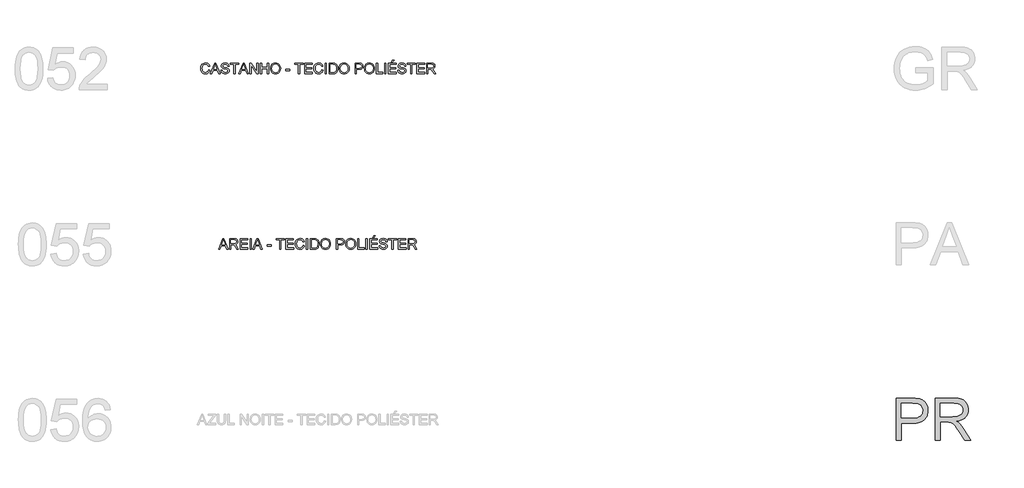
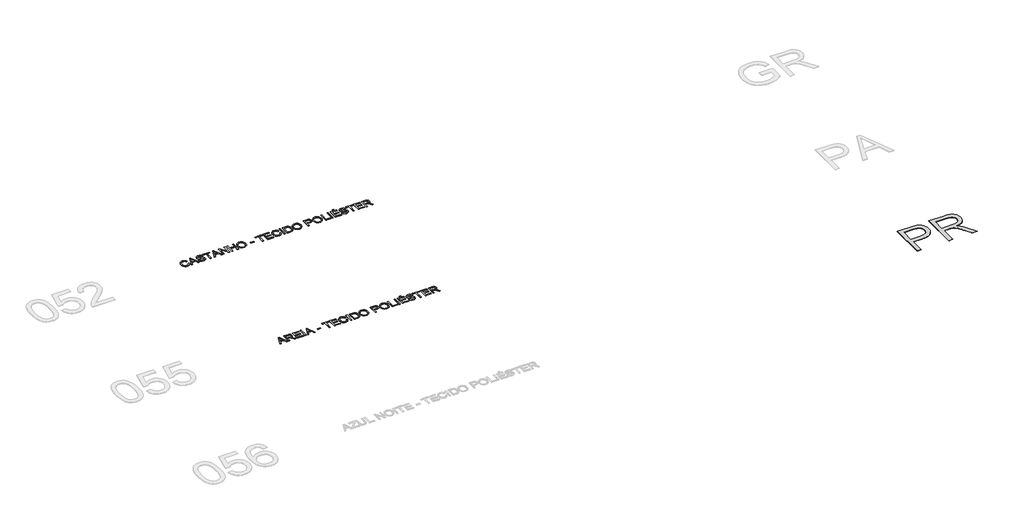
# One storey, part 51 of 67: 3 proxies.
"""IFC4 building model written with IfcOpenShell, lengths in millimetres."""

import ifcopenshell
import ifcopenshell.guid

model = None  # the IFC model being written
_history = None  # IfcOwnerHistory: only IFC2X3 demands one
_inside = {}  # id of a spatial element -> (the spatial element, [elements in it])
_under = {}  # id of a project, library or spatial element -> (it, [spatial elements below it])
_declared = {}  # id of a project -> (the project, [libraries it declares])
_typed = {}  # id of a type object -> (the type object, [elements of that type])
_made_of = {}  # id of a material, layer set ... -> (it, [elements and type objects made of it])


def new_model(schema):
    """Start an empty IFC model of exactly this schema.

    Asked for "IFC4X3", IfcOpenShell would pick the latest addendum, in which some entities
    have other attributes; the version numbers below select the first issue.
    IFC2X3 requires an IfcOwnerHistory on every rooted entity: one is made here for all.
    """
    global model, _history
    if schema == "IFC4X3":
        model = ifcopenshell.file(schema_version=(4, 3, 0, 0))
    else:
        model = ifcopenshell.file(schema=schema)
    _inside.clear()
    _under.clear()
    _declared.clear()
    _typed.clear()
    _made_of.clear()
    _history = None
    if model.schema == "IFC2X3":
        org = make("IfcOrganization", Name="unknown")
        user = make(
            "IfcPersonAndOrganization",
            ThePerson=make("IfcPerson", FamilyName="unknown"),
            TheOrganization=org,
        )
        app = make(
            "IfcApplication",
            ApplicationDeveloper=org,
            Version="unknown",
            ApplicationFullName="unknown",
            ApplicationIdentifier="unknown",
        )
        _history = make(
            "IfcOwnerHistory",
            OwningUser=user,
            OwningApplication=app,
            ChangeAction="ADDED",
            CreationDate=0,
        )
    return model


def make(cls, **values):
    """One entity of the class cls with the attributes given. An attribute that is None is left unset."""
    return model.create_entity(
        cls, **{name: value for name, value in values.items() if value is not None}
    )


def rooted(cls, **values):
    """An entity with a GlobalId (a new one), such as an element, a storey or a relation."""
    return make(cls, GlobalId=ifcopenshell.guid.new(), OwnerHistory=_history, **values)


def si_unit(unit_type, name, prefix=None):
    """IfcSIUnit, for example si_unit("LENGTHUNIT", "METRE", prefix="MILLI")."""
    return make("IfcSIUnit", UnitType=unit_type, Prefix=prefix, Name=name)


def assignment(units):
    """IfcUnitAssignment: the units of a project."""
    return None if units is None else make("IfcUnitAssignment", Units=units)


def point(xyz):
    """IfcCartesianPoint."""
    return None if xyz is None else make("IfcCartesianPoint", Coordinates=xyz)


def direction(xyz):
    """IfcDirection."""
    return None if xyz is None else make("IfcDirection", DirectionRatios=xyz)


def frame(location, z_axis=None, x_axis=None):
    """IfcAxis2Placement3D, a coordinate frame: its origin and axes. An axis left out is left unset."""
    return make(
        "IfcAxis2Placement3D",
        Location=point(location),
        Axis=direction(z_axis),
        RefDirection=direction(x_axis),
    )


def origin():
    """The frame at (0, 0, 0) with its axes left unset."""
    return frame((0.0, 0.0, 0.0))


def origin_with_axes():
    """The frame at (0, 0, 0) with the z axis (0, 0, 1) and the x axis (1, 0, 0) written out."""
    return frame((0.0, 0.0, 0.0), z_axis=(0.0, 0.0, 1.0), x_axis=(1.0, 0.0, 0.0))


def place(relative_to, where):
    """IfcLocalPlacement: puts the frame where relative to a parent placement (None: the world)."""
    return make(
        "IfcLocalPlacement", PlacementRelTo=relative_to, RelativePlacement=where
    )


def context(
    kind, dimensions, precision=None, world=None, true_north=None, identifier=None
):
    """IfcGeometricRepresentationContext, for example the 3D "Model" context."""
    return make(
        "IfcGeometricRepresentationContext",
        ContextIdentifier=identifier,
        ContextType=kind,
        CoordinateSpaceDimension=dimensions,
        Precision=precision,
        WorldCoordinateSystem=world,
        TrueNorth=true_north,
    )


def project(units=None, contexts=None):
    """IfcProject with its units and contexts."""
    return rooted(
        "IfcProject",
        Name="project",
        RepresentationContexts=contexts,
        UnitsInContext=assignment(units),
    )


def spatial(cls, under=None, at=None, **own):
    """A site, building, storey or space (cls), placed at a placement, below another one or the project."""
    s = rooted(cls, ObjectPlacement=at, **own)
    if under is not None:
        _under.setdefault(under.id(), (under, []))[1].append(s)
    return s


def polyline(points):
    """IfcPolyline through the points."""
    return make("IfcPolyline", Points=[point(p) for p in points])


def outline(outer, holes=None, kind="AREA"):
    """IfcArbitraryClosedProfileDef: a profile drawn as a closed curve; with holes, ...WithVoids."""
    if holes is None:
        return make("IfcArbitraryClosedProfileDef", ProfileType=kind, OuterCurve=outer)
    return make(
        "IfcArbitraryProfileDefWithVoids",
        ProfileType=kind,
        OuterCurve=outer,
        InnerCurves=holes,
    )


def extrude(swept, where, along, depth):
    """IfcExtrudedAreaSolid: the profile swept, set in the frame where, extruded along a direction by depth."""
    return make(
        "IfcExtrudedAreaSolid",
        SweptArea=swept,
        Position=where,
        ExtrudedDirection=direction(along),
        Depth=depth,
    )


def shape(context_of_items, identifier, shape_type, items):
    """IfcShapeRepresentation: the items that make up one representation, for example the "Body"."""
    return make(
        "IfcShapeRepresentation",
        ContextOfItems=context_of_items,
        RepresentationIdentifier=identifier,
        RepresentationType=shape_type,
        Items=items,
    )


def made_of(thing, what):
    """Note that an element or type object is made of a material, layer set ...; save() writes the relation."""
    if what is not None:
        _made_of.setdefault(what.id(), (what, []))[1].append(thing)
    return thing


def element(
    cls,
    number,
    at=None,
    inside=None,
    cuts=None,
    type_object=None,
    material=None,
    context=None,
    identifier="Body",
    shape_type=None,
    held_by="IfcProductDefinitionShape",
    body=None,
    shapes=None,
    **own,
):
    """One element of the class cls, such as IfcWall. Its Tag is "e" and its number.

    at: its placement. inside: the storey or other place that contains it. cuts: it is an
    opening in that element (IfcRelVoidsElement). A single representation is given by context,
    identifier, shape_type and body (its items); several are given by shapes. held_by: the class
    of the entity that holds the representations. save() writes the other relations.
    """
    e = rooted(cls, Tag="e%d" % number, ObjectPlacement=at, **own)
    if body is not None:
        shapes = [shape(context, identifier, shape_type, body)]
    if shapes is not None:
        e.Representation = make(held_by, Representations=shapes)
    if inside is not None:
        _inside.setdefault(inside.id(), (inside, []))[1].append(e)
    if cuts is not None:
        rooted(
            "IfcRelVoidsElement", RelatingBuildingElement=cuts, RelatedOpeningElement=e
        )
    if type_object is not None:
        _typed.setdefault(type_object.id(), (type_object, []))[1].append(e)
    return made_of(e, material)


def aggregate(whole, parts):
    """IfcRelAggregates: a whole, such as a stair, and the parts it consists of."""
    return rooted("IfcRelAggregates", RelatingObject=whole, RelatedObjects=parts)


def save(model, path):
    """Write the relations noted so far, then the file.

    IfcRelAggregates (storeys below a building ...), IfcRelContainedInSpatialStructure (elements
    in a storey), IfcRelDefinesByType, IfcRelAssociatesMaterial and IfcRelDeclares: one each for
    every whole, place, type object, material and project.
    """
    for whole, parts in _under.values():
        aggregate(whole, parts)
    for where, things in _inside.values():
        rooted(
            "IfcRelContainedInSpatialStructure",
            RelatedElements=things,
            RelatingStructure=where,
        )
    for kind, things in _typed.values():
        rooted("IfcRelDefinesByType", RelatedObjects=things, RelatingType=kind)
    for what, things in _made_of.values():
        rooted("IfcRelAssociatesMaterial", RelatedObjects=things, RelatingMaterial=what)
    for by, libraries in _declared.values():
        rooted("IfcRelDeclares", RelatingContext=by, RelatedDefinitions=libraries)
    model.write(path)


model = new_model("IFC4")

# Units and contexts
model_context = context("Model", 3, world=origin())
ifc_project = project(units=[si_unit("LENGTHUNIT", "METRE", prefix="MILLI")], contexts=[model_context])

# Site, building, storey
site = spatial("IfcSite", under=ifc_project)
building = spatial("IfcBuilding", under=site)
storey = spatial("IfcBuildingStorey", under=building, Name="Marelli - Linha COLAB - Planta Baixa", Elevation=0.0)

# Proxies
placement = place(None, origin())
element("IfcBuildingElementProxy", 1, Name="1200mm Arial", ObjectType="1200mm Arial", at=placement, inside=storey, context=model_context, shape_type="SweptSolid", body=[
    extrude(outline(polyline([(24875.3752953, -42980.5663201), (24875.3752953, -41775.0905983), (25322.1311902, -41775.0905983), (25426.1682184, -41777.9600778), (25502.246215, -41786.5685165), (25544.1755654, -41795.6092166), (25582.5548546, -41808.0160368), (25617.3840825, -41823.7889774), (25648.6632491, -41842.9280382), (25676.7234483, -41865.8286924), (25701.8957738, -41892.8864131), (25724.1802257, -41924.1012004), (25743.5768039, -41959.4730543), (25759.2853651, -41997.8339493), (25770.5057659, -42038.0158602), (25777.2380064, -42080.018787), (25779.4820866, -42123.8427297), (25773.4212307, -42197.842193), (25765.8451609, -42232.6208371), (25755.2386631, -42265.9187562), (25741.6017374, -42297.7359503), (25724.9343838, -42328.0724193), (25705.2366022, -42356.9281633), (25682.5083927, -42384.3031823), (25655.8254517, -42409.2731727), (25624.2634758, -42430.9138311), (25587.8224649, -42449.2251574), (25546.5024191, -42464.2071516), (25500.3033382, -42475.8598138), (25449.2252225, -42484.183144), (25393.2680718, -42489.1771421), (25332.4318861, -42490.8418081), (25026.0597605, -42490.8418081), (25026.0597605, -42980.5663201), (24875.3752953, -42980.5663201)]), holes=[polyline([(25026.0597605, -42340.1573429), (25341.2610539, -42340.1573429), (25413.733807, -42336.6992521), (25474.8757946, -42326.3249798), (25524.6870167, -42309.0345261), (25563.1674734, -42284.8278908), (25591.8806632, -42254.3488675), (25612.3900844, -42218.2412497), (25624.6957371, -42176.5050373), (25628.7976214, -42129.1402304), (25626.3787973, -42093.9707117), (25619.1223249, -42061.4499433), (25607.0282043, -42031.5779253), (25590.0964355, -42004.3546577), (25569.2283293, -41980.6630572), (25545.3251967, -41961.3860406), (25518.3870376, -41946.523608), (25488.413852, -41936.0757594), (25430.2884968, -41928.3502375), (25337.7293868, -41925.7750635), (25026.0597605, -41925.7750635), (25026.0597605, -42340.1573429)])]), origin_with_axes(), (0.0, 0.0, 1.0), 10.0),
    extrude(outline(polyline([(25986.6732263, -42980.5663201), (25986.6732263, -41775.0905983), (26506.1226035, -41775.0905983), (26580.6830868, -41777.1231463), (26645.7338206, -41783.2207904), (26701.2748049, -41793.3835305), (26747.3060395, -41807.6113666), (26786.5038661, -41826.9987478), (26821.5446261, -41852.6401229), (26852.4283196, -41884.5354918), (26879.1549466, -41922.6848547), (26900.7220286, -41965.0372694), (26916.1270871, -42009.5417938), (26925.3701222, -42056.1984278), (26928.4511339, -42105.0071715), (26923.3467713, -42166.9217113), (26908.0336832, -42223.7594796), (26882.5118698, -42275.5204763), (26846.781331, -42322.2047015), (26824.9728265, -42343.2705442), (26800.3822144, -42362.3222331), (26742.8546674, -42394.383149), (26674.19869, -42418.3874491), (26594.4142823, -42434.3351336), (26644.0783517, -42466.7823256), (26680.0572108, -42498.7880592), (26741.7878096, -42571.9965762), (26802.1940332, -42653.8871084), (27003.2047554, -42980.5663201), (26828.0929257, -42980.5663201), (26671.2280429, -42730.7008689), (26608.4673745, -42635.3458558), (26557.9203884, -42565.3011239), (26515.7978999, -42517.0717943), (26478.3107246, -42487.1629881), (26442.8101121, -42469.615017), (26406.647312, -42458.4681925), (26371.4042168, -42454.495067), (26319.2385499, -42453.1706918), (26137.3576915, -42453.1706918), (26137.3576915, -42980.5663201), (25986.6732263, -42980.5663201)]), holes=[polyline([(26137.3576915, -42302.4862266), (26474.6319047, -42302.4862266), (26571.495234, -42297.1519376), (26611.7875095, -42290.4840765), (26646.6535256, -42281.1490708), (26676.8750315, -42268.8802063), (26703.2337765, -42253.4107684), (26725.7297605, -42234.7407571), (26744.3629836, -42212.8701725), (26758.9770958, -42188.8750694), (26769.4157474, -42163.8315026), (26775.6789384, -42137.7394721), (26777.7666687, -42110.5989779), (26773.7843461, -42072.0633389), (26761.8373783, -42037.0961552), (26741.9257653, -42005.6974269), (26714.0495071, -41977.867154), (26677.5648103, -41955.0768644), (26631.8278812, -41938.7980861), (26576.83872, -41929.0308192), (26512.5973266, -41925.7750635), (26137.3576915, -41925.7750635), (26137.3576915, -42302.4862266)])]), origin_with_axes(), (0.0, 0.0, 1.0), 10.0),
])
element("IfcBuildingElementProxy", 2, Name="300mm Arial", ObjectType="300mm Arial", at=placement, inside=storey, context=model_context, shape_type="SweptSolid", body=[
    extrude(outline(polyline([(5567.3824418, -37530.5663201), (5687.6798542, -37229.1973896), (5719.7591642, -37229.1973896), (5840.0565766, -37530.5663201), (5800.2517447, -37530.5663201), (5765.7444136, -37436.3885293), (5641.6210284, -37436.3885293), (5607.1872736, -37530.5663201), (5567.3824418, -37530.5663201)]), holes=[polyline([(5655.4533914, -37398.717413), (5751.9856269, -37398.717413), (5724.8359357, -37324.6259792), (5703.7195092, -37266.8685059), (5684.9575274, -37318.1512561), (5655.4533914, -37398.717413)])]), origin_with_axes(), (0.0, 0.0, 1.0), 10.0),
    extrude(outline(polyline([(5880.3028669, -37530.5663201), (5880.3028669, -37229.1973896), (6010.1652112, -37229.1973896), (6045.0680154, -37231.2299376), (6070.4610702, -37237.3275817), (6089.0207168, -37248.5847708), (6103.4232969, -37266.0959537), (6112.6663321, -37287.8101885), (6115.7473438, -37311.6765329), (6110.6429811, -37341.3646099), (6095.329893, -37365.9759154), (6083.7301139, -37376.0052983), (6069.3482271, -37384.0205273), (6032.2381309, -37394.0085235), (6053.648863, -37410.1217548), (6084.1830686, -37448.8965171), (6134.4357491, -37530.5663201), (6090.6577917, -37530.5663201), (6051.441571, -37468.0999573), (6023.1146574, -37426.750021), (6003.2122414, -37407.2154871), (5985.2963883, -37400.0417882), (5963.4441978, -37398.717413), (5917.9739832, -37398.717413), (5917.9739832, -37530.5663201), (5880.3028669, -37530.5663201)]), holes=[polyline([(5917.9739832, -37361.0462967), (6002.2925365, -37361.0462967), (6026.5083688, -37359.7127245), (6045.2979417, -37355.7120078), (6059.4430044, -37348.7774322), (6069.7253062, -37338.6422832), (6075.9884971, -37326.3826157), (6078.0762275, -37313.0744845), (6074.0939049, -37294.6987789), (6062.1469371, -37279.8915286), (6041.5915306, -37270.1242616), (6011.7838919, -37266.8685059), (5917.9739832, -37266.8685059), (5917.9739832, -37361.0462967)])]), origin_with_axes(), (0.0, 0.0, 1.0), 10.0),
    extrude(outline(polyline([(6181.6717973, -37530.5663201), (6181.6717973, -37229.1973896), (6398.2807161, -37229.1973896), (6398.2807161, -37266.8685059), (6219.3429136, -37266.8685059), (6219.3429136, -37356.3374072), (6388.862937, -37356.3374072), (6388.862937, -37394.0085235), (6219.3429136, -37394.0085235), (6219.3429136, -37492.8952038), (6402.9896056, -37492.8952038), (6402.9896056, -37530.5663201), (6181.6717973, -37530.5663201)])), origin_with_axes(), (0.0, 0.0, 1.0), 10.0),
    extrude(outline(polyline([(6464.2051696, -37530.5663201), (6464.2051696, -37229.1973896), (6501.8762859, -37229.1973896), (6501.8762859, -37530.5663201), (6464.2051696, -37530.5663201)])), origin_with_axes(), (0.0, 0.0, 1.0), 10.0),
    extrude(outline(polyline([(6542.1225762, -37530.5663201), (6662.4199886, -37229.1973896), (6694.4992986, -37229.1973896), (6814.796711, -37530.5663201), (6774.9918791, -37530.5663201), (6740.484548, -37436.3885293), (6616.3611628, -37436.3885293), (6581.9274081, -37530.5663201), (6542.1225762, -37530.5663201)]), holes=[polyline([(6630.1935258, -37398.717413), (6726.7257614, -37398.717413), (6699.5760701, -37324.6259792), (6678.4596436, -37266.8685059), (6659.6976618, -37318.1512561), (6630.1935258, -37398.717413)])]), origin_with_axes(), (0.0, 0.0, 1.0), 10.0),
    extrude(outline(polyline([(6949.220792, -37441.0974188), (6949.220792, -37403.4263025), (7066.9430305, -37403.4263025), (7066.9430305, -37441.0974188), (6949.220792, -37441.0974188)])), origin_with_axes(), (0.0, 0.0, 1.0), 10.0),
    extrude(outline(polyline([(7307.096397, -37530.5663201), (7307.096397, -37266.8685059), (7208.2097166, -37266.8685059), (7208.2097166, -37229.1973896), (7443.6541936, -37229.1973896), (7443.6541936, -37266.8685059), (7344.7675133, -37266.8685059), (7344.7675133, -37530.5663201), (7307.096397, -37530.5663201)])), origin_with_axes(), (0.0, 0.0, 1.0), 10.0),
    extrude(outline(polyline([(7486.0341994, -37530.5663201), (7486.0341994, -37229.1973896), (7702.6431182, -37229.1973896), (7702.6431182, -37266.8685059), (7523.7053157, -37266.8685059), (7523.7053157, -37356.3374072), (7693.2253391, -37356.3374072), (7693.2253391, -37394.0085235), (7523.7053157, -37394.0085235), (7523.7053157, -37492.8952038), (7707.3520077, -37492.8952038), (7707.3520077, -37530.5663201), (7486.0341994, -37530.5663201)])), origin_with_axes(), (0.0, 0.0, 1.0), 10.0),
    extrude(outline(polyline([(7975.7587114, -37423.4390831), (8013.4298277, -37433.1511677), (8005.9756188, -37456.5783531), (7996.0474034, -37477.0486868), (7983.6451817, -37494.5621691), (7968.7689535, -37509.1187997), (7951.7544112, -37520.5622291), (7932.9372471, -37528.7361071), (7912.3174613, -37533.640434), (7889.8950537, -37535.2752096), (7846.1998697, -37530.3271968), (7811.4994005, -37515.4831583), (7784.9015323, -37491.2581289), (7765.5141511, -37458.1671434), (7753.6775479, -37419.2636224), (7749.7320135, -37377.6009865), (7754.1925827, -37333.6574821), (7767.5742903, -37295.7104543), (7789.1781605, -37264.9647166), (7818.3052174, -37242.6250824), (7852.8493368, -37229.0226457), (7890.7043941, -37224.4885001), (7932.0083451, -37230.3562179), (7949.9770813, -37237.6908652), (7966.1569913, -37247.9593714), (7980.2813607, -37260.8904235), (7992.0834749, -37276.2127086), (8008.7209382, -37314.0309777), (7971.0498218, -37323.0072984), (7957.990011, -37295.5357104), (7940.1477343, -37276.6909552), (7917.3022624, -37265.7924511), (7889.2328661, -37262.1596164), (7856.8776446, -37266.1879242), (7830.2981705, -37278.2728478), (7810.1290401, -37297.1451941), (7797.0048499, -37321.5357704), (7789.8035599, -37349.1085259), (7787.4031299, -37377.5274101), (7790.2450183, -37412.3290468), (7798.7706835, -37442.421794), (7813.3020223, -37466.6560205), (7834.1609314, -37483.8820949), (7859.1677101, -37494.1735937), (7886.1426574, -37497.6040933), (7917.5873709, -37492.931992), (7943.789766, -37478.9156879), (7963.5726203, -37455.702334), (7975.7587114, -37423.4390831)])), origin_with_axes(), (0.0, 0.0, 1.0), 10.0),
    extrude(outline(polyline([(8069.9365021, -37530.5663201), (8069.9365021, -37229.1973896), (8107.6076185, -37229.1973896), (8107.6076185, -37530.5663201), (8069.9365021, -37530.5663201)])), origin_with_axes(), (0.0, 0.0, 1.0), 10.0),
    extrude(outline(polyline([(8182.9498511, -37530.5663201), (8182.9498511, -37229.1973896), (8286.9133029, -37229.1973896), (8340.6976506, -37233.5383972), (8364.7203449, -37241.9077126), (8384.9906428, -37255.0962821), (8405.8311578, -37278.0521186), (8420.6751964, -37306.5997614), (8429.5595465, -37340.1873876), (8432.5209966, -37378.2631741), (8430.5160397, -37410.6091985), (8424.5011691, -37439.0740679), (8415.3409074, -37463.3082943), (8403.8997774, -37482.9623899), (8390.7296019, -37498.477813), (8376.3822041, -37510.2960221), (8359.9102878, -37519.0608107), (8340.3665568, -37525.4159721), (8291.916498, -37530.5663201), (8182.9498511, -37530.5663201)]), holes=[polyline([(8220.6209674, -37492.8952038), (8287.2811849, -37492.8952038), (8314.8539404, -37491.5340404), (8335.7680319, -37487.4505502), (8351.5501695, -37480.8838566), (8363.7270635, -37472.0730828), (8376.8144655, -37455.7667134), (8386.6461118, -37434.6594839), (8392.7989382, -37408.6594239), (8394.8498803, -37377.6745629), (8390.8307695, -37336.6189322), (8378.7734371, -37306.3054558), (8360.9587515, -37285.4833349), (8339.667581, -37272.9017706), (8317.9993315, -37268.3768221), (8286.2511153, -37266.8685059), (8220.6209674, -37266.8685059), (8220.6209674, -37492.8952038)])]), origin_with_axes(), (0.0, 0.0, 1.0), 10.0),
    extrude(outline(polyline([(8470.1921129, -37383.8549804), (8472.7029075, -37348.5061192), (8480.2352914, -37317.213157), (8492.7892645, -37289.9760937), (8510.3648268, -37266.7949295), (8531.9089161, -37248.2858666), (8556.3684703, -37235.0651074), (8583.7434892, -37227.1326519), (8614.033973, -37224.4885001), (8653.5628934, -37229.454907), (8689.0083236, -37244.3541278), (8718.4388832, -37268.1376988), (8739.9231918, -37299.7571563), (8753.056579, -37337.68579), (8757.4343747, -37380.3968896), (8752.8266527, -37423.6782064), (8739.0034868, -37462.140269), (8716.728232, -37493.8149087), (8686.7642435, -37516.733957), (8651.6223159, -37530.6398965), (8613.8132438, -37535.2752096), (8573.6773181, -37530.1524528), (8538.0295528, -37514.7841825), (8508.6725696, -37490.5591531), (8487.4089903, -37458.8661192), (8474.4963322, -37422.3998164), (8470.1921129, -37383.8549804)]), holes=[polyline([(8507.8632292, -37384.2228624), (8509.7463252, -37409.1974513), (8515.3956131, -37431.3669401), (8524.8110929, -37450.7313286), (8537.9927646, -37467.2906169), (8554.0163248, -37480.5527628), (8571.9574698, -37490.0257242), (8591.8161998, -37495.709501), (8613.5925146, -37497.6040933), (8635.74131, -37495.6911069), (8655.8345647, -37489.9521478), (8673.8722788, -37480.3872159), (8689.8544522, -37466.9963113), (8702.9395549, -37450.0875351), (8712.2860569, -37429.9689885), (8717.893958, -37406.6406715), (8719.7632584, -37380.102584), (8716.5626851, -37346.7540812), (8706.960965, -37317.9305269), (8691.2064186, -37294.358488), (8669.5473661, -37276.7645316), (8643.4185474, -37265.8108452), (8614.2547022, -37262.1596164), (8593.2348447, -37263.9185522), (8573.7325004, -37269.1953595), (8555.7476694, -37277.9900385), (8539.2803516, -37290.302589), (8525.5353606, -37306.7262208), (8515.7175098, -37327.8541437), (8509.8267994, -37353.6863575), (8507.8632292, -37384.2228624)])]), origin_with_axes(), (0.0, 0.0, 1.0), 10.0),
    extrude(outline(polyline([(8926.9543981, -37530.5663201), (8926.9543981, -37229.1973896), (9038.6433718, -37229.1973896), (9083.6721281, -37232.0668692), (9103.7492879, -37237.4287493), (9120.2763866, -37246.1567496), (9133.5845178, -37258.6463433), (9144.0047753, -37275.2930036), (9150.7370158, -37294.9287051), (9152.9810959, -37316.3854225), (9151.465882, -37334.8852883), (9146.9202401, -37351.9044291), (9139.3441702, -37367.4428449), (9128.7376725, -37381.5005356), (9114.1764432, -37393.1531978), (9094.7361791, -37401.476528), (9070.4168799, -37406.470526), (9041.2185458, -37408.1351921), (8964.6255144, -37408.1351921), (8964.6255144, -37530.5663201), (8926.9543981, -37530.5663201)]), holes=[polyline([(8964.6255144, -37370.4640758), (9043.4258378, -37370.4640758), (9076.8295229, -37367.005985), (9098.9024427, -37356.6317127), (9111.2080954, -37339.9850525), (9115.3099796, -37317.7097977), (9112.8911555, -37300.7872259), (9105.6346832, -37286.5134045), (9094.4418735, -37275.7712502), (9080.2140373, -37269.4436799), (9042.542921, -37266.8685059), (8964.6255144, -37266.8685059), (8964.6255144, -37370.4640758)])]), origin_with_axes(), (0.0, 0.0, 1.0), 10.0),
    extrude(outline(polyline([(9190.6522123, -37383.8549804), (9193.1630069, -37348.5061192), (9200.6953907, -37317.213157), (9213.2493638, -37289.9760937), (9230.8249261, -37266.7949295), (9252.3690155, -37248.2858666), (9276.8285696, -37235.0651074), (9304.2035886, -37227.1326519), (9334.4940724, -37224.4885001), (9374.0229928, -37229.454907), (9409.468423, -37244.3541278), (9438.8989826, -37268.1376988), (9460.3832911, -37299.7571563), (9473.5166783, -37337.68579), (9477.8944741, -37380.3968896), (9473.2867521, -37423.6782064), (9459.4635861, -37462.140269), (9437.1883313, -37493.8149087), (9407.2243428, -37516.733957), (9372.0824152, -37530.6398965), (9334.2733432, -37535.2752096), (9294.1374175, -37530.1524528), (9258.4896522, -37514.7841825), (9229.132669, -37490.5591531), (9207.8690896, -37458.8661192), (9194.9564316, -37422.3998164), (9190.6522123, -37383.8549804)]), holes=[polyline([(9228.3233286, -37384.2228624), (9230.2064245, -37409.1974513), (9235.8557124, -37431.3669401), (9245.2711922, -37450.7313286), (9258.452864, -37467.2906169), (9274.4764241, -37480.5527628), (9292.4175692, -37490.0257242), (9312.2762991, -37495.709501), (9334.052614, -37497.6040933), (9356.2014093, -37495.6911069), (9376.2946641, -37489.9521478), (9394.3323781, -37480.3872159), (9410.3145516, -37466.9963113), (9423.3996543, -37450.0875351), (9432.7461562, -37429.9689885), (9438.3540574, -37406.6406715), (9440.2233578, -37380.102584), (9437.0227844, -37346.7540812), (9427.4210644, -37317.9305269), (9411.6665179, -37294.358488), (9390.0074654, -37276.7645316), (9363.8786467, -37265.8108452), (9334.7148016, -37262.1596164), (9313.6949441, -37263.9185522), (9294.1925998, -37269.1953595), (9276.2077688, -37277.9900385), (9259.740451, -37290.302589), (9245.9954599, -37306.7262208), (9236.1776092, -37327.8541437), (9230.2868987, -37353.6863575), (9228.3233286, -37384.2228624)])]), origin_with_axes(), (0.0, 0.0, 1.0), 10.0),
    extrude(outline(polyline([(9529.692259, -37530.5663201), (9529.692259, -37229.1973896), (9567.3633753, -37229.1973896), (9567.3633753, -37492.8952038), (9718.0478405, -37492.8952038), (9718.0478405, -37530.5663201), (9529.692259, -37530.5663201)])), origin_with_axes(), (0.0, 0.0, 1.0), 10.0),
    extrude(outline(polyline([(9765.1367359, -37530.5663201), (9765.1367359, -37229.1973896), (9802.8078522, -37229.1973896), (9802.8078522, -37530.5663201), (9765.1367359, -37530.5663201)])), origin_with_axes(), (0.0, 0.0, 1.0), 10.0),
    extrude(outline(polyline([(9878.1500848, -37530.5663201), (9878.1500848, -37229.1973896), (10094.7590036, -37229.1973896), (10094.7590036, -37266.8685059), (9915.8212011, -37266.8685059), (9915.8212011, -37356.3374072), (10085.3412245, -37356.3374072), (10085.3412245, -37394.0085235), (9915.8212011, -37394.0085235), (9915.8212011, -37492.8952038), (10099.4678931, -37492.8952038), (10099.4678931, -37530.5663201), (9878.1500848, -37530.5663201)])), origin_with_axes(), (0.0, 0.0, 1.0), 10.0),
    extrude(outline(polyline([(9962.9100965, -37210.3618315), (9991.1634338, -37153.855157), (10038.2523291, -37153.855157), (9991.1634338, -37210.3618315), (9962.9100965, -37210.3618315)])), origin_with_axes(), (0.0, 0.0, 1.0), 10.0),
    extrude(outline(polyline([(10141.847899, -37426.9707502), (10179.5190153, -37426.9707502), (10183.8416287, -37447.8756446), (10191.6591211, -37464.6786547), (10203.8544093, -37478.0143771), (10221.3104099, -37488.517408), (10242.6475657, -37495.332422), (10266.486319, -37497.6040933), (10287.4739868, -37495.884245), (10305.8496924, -37490.7247), (10320.7397162, -37482.5577197), (10331.2703383, -37471.8155654), (10337.5335293, -37459.4823216), (10339.6212596, -37446.5420724), (10338.0577611, -37433.932917), (10333.3672657, -37423.0344129), (10323.839122, -37413.7361954), (10307.7626788, -37405.9279001), (10252.9114733, -37391.5437141), (10216.9050231, -37382.0247675), (10193.8664131, -37372.9656733), (10175.1136284, -37360.2921386), (10161.8238913, -37344.9330653), (10153.9052314, -37327.2195472), (10151.2656781, -37307.4826782), (10154.5306308, -37285.4189555), (10164.3254889, -37264.845155), (10180.392735, -37247.4075484), (10202.4748518, -37234.7524077), (10228.9807495, -37227.054477), (10258.3193387, -37224.4885001), (10290.104343, -37227.1740386), (10317.9162219, -37235.2306543), (10340.7616938, -37248.4928003), (10357.6474774, -37266.7949295), (10368.3344493, -37288.9966079), (10372.5834864, -37313.9574013), (10334.9123701, -37313.9574013), (10327.9961885, -37291.4798114), (10313.5752143, -37275.2562154), (10291.0424421, -37265.4337661), (10259.7908666, -37262.1596164), (10227.8035272, -37265.3969779), (10205.8593661, -37275.1090626), (10193.1674373, -37289.4012781), (10188.9367944, -37306.3790322), (10191.9350326, -37320.8551887), (10200.9297474, -37332.4986539), (10222.1933267, -37342.9097143), (10262.439617, -37353.541504), (10303.9734943, -37363.6398648), (10329.0998345, -37372.4506385), (10350.574946, -37386.1174547), (10365.5569403, -37402.9848441), (10374.358517, -37422.868866), (10377.2923759, -37445.5855792), (10373.9170586, -37468.8081301), (10363.7911067, -37490.6511236), (10347.3283874, -37509.4498935), (10324.942768, -37523.539774), (10298.023003, -37532.3413507), (10267.9578469, -37535.2752096), (10231.0500858, -37532.1114244), (10200.67223, -37522.620069), (10176.4747918, -37506.764355), (10158.1082832, -37484.5074943), (10146.3176652, -37457.3945912), (10141.847899, -37426.9707502)])), origin_with_axes(), (0.0, 0.0, 1.0), 10.0),
    extrude(outline(polyline([(10509.141283, -37530.5663201), (10509.141283, -37266.8685059), (10410.2546027, -37266.8685059), (10410.2546027, -37229.1973896), (10645.6990796, -37229.1973896), (10645.6990796, -37266.8685059), (10546.8123993, -37266.8685059), (10546.8123993, -37530.5663201), (10509.141283, -37530.5663201)])), origin_with_axes(), (0.0, 0.0, 1.0), 10.0),
    extrude(outline(polyline([(10688.0790854, -37530.5663201), (10688.0790854, -37229.1973896), (10904.6880042, -37229.1973896), (10904.6880042, -37266.8685059), (10725.7502017, -37266.8685059), (10725.7502017, -37356.3374072), (10895.2702251, -37356.3374072), (10895.2702251, -37394.0085235), (10725.7502017, -37394.0085235), (10725.7502017, -37492.8952038), (10909.3968937, -37492.8952038), (10909.3968937, -37530.5663201), (10688.0790854, -37530.5663201)])), origin_with_axes(), (0.0, 0.0, 1.0), 10.0),
    extrude(outline(polyline([(10965.9035682, -37530.5663201), (10965.9035682, -37229.1973896), (11095.7659125, -37229.1973896), (11130.6687168, -37231.2299376), (11156.0617715, -37237.3275817), (11174.6214181, -37248.5847708), (11189.0239983, -37266.0959537), (11198.2670334, -37287.8101885), (11201.3480451, -37311.6765329), (11196.2436824, -37341.3646099), (11180.9305944, -37365.9759154), (11169.3308152, -37376.0052983), (11154.9489285, -37384.0205273), (11117.8388322, -37394.0085235), (11139.2495643, -37410.1217548), (11169.7837699, -37448.8965171), (11220.0364504, -37530.5663201), (11176.258493, -37530.5663201), (11137.0422723, -37468.0999573), (11108.7153587, -37426.750021), (11088.8129428, -37407.2154871), (11070.8970896, -37400.0417882), (11049.0448991, -37398.717413), (11003.5746845, -37398.717413), (11003.5746845, -37530.5663201), (10965.9035682, -37530.5663201)]), holes=[polyline([(11003.5746845, -37361.0462967), (11087.8932378, -37361.0462967), (11112.1090701, -37359.7127245), (11130.898643, -37355.7120078), (11145.0437057, -37348.7774322), (11155.3260075, -37338.6422832), (11161.5891985, -37326.3826157), (11163.6769288, -37313.0744845), (11159.6946062, -37294.6987789), (11147.7476384, -37279.8915286), (11127.1922319, -37270.1242616), (11097.3845933, -37266.8685059), (11003.5746845, -37266.8685059), (11003.5746845, -37361.0462967)])]), origin_with_axes(), (0.0, 0.0, 1.0), 10.0),
])
element("IfcBuildingElementProxy", 3, Name="300mm Arial", ObjectType="300mm Arial", at=placement, inside=storey, context=model_context, shape_type="SweptSolid", body=[
    extrude(outline(polyline([(5282.2738955, -32423.4390831), (5319.9450118, -32433.1511677), (5312.4908029, -32456.5783531), (5302.5625875, -32477.0486868), (5290.1603658, -32494.5621691), (5275.2841376, -32509.1187997), (5258.2695953, -32520.5622291), (5239.4524313, -32528.7361071), (5218.8326454, -32533.640434), (5196.4102378, -32535.2752096), (5152.7150538, -32530.3271968), (5118.0145847, -32515.4831583), (5091.4167164, -32491.2581289), (5072.0293353, -32458.1671434), (5060.1927321, -32419.2636224), (5056.2471977, -32377.6009865), (5060.7077669, -32333.6574821), (5074.0894744, -32295.7104543), (5095.6933446, -32264.9647166), (5124.8204016, -32242.6250824), (5159.3645209, -32229.0226457), (5197.2195782, -32224.4885001), (5238.5235292, -32230.3562179), (5256.4922654, -32237.6908652), (5272.6721754, -32247.9593714), (5286.7965448, -32260.8904235), (5298.598659, -32276.2127086), (5315.2361223, -32314.0309777), (5277.565006, -32323.0072984), (5264.5051951, -32295.5357104), (5246.6629184, -32276.6909552), (5223.8174465, -32265.7924511), (5195.7480502, -32262.1596164), (5163.3928288, -32266.1879242), (5136.8133546, -32278.2728478), (5116.6442242, -32297.1451941), (5103.520034, -32321.5357704), (5096.318744, -32349.1085259), (5093.918314, -32377.5274101), (5096.7602024, -32412.3290468), (5105.2858676, -32442.421794), (5119.8172064, -32466.6560205), (5140.6761156, -32483.8820949), (5165.6828942, -32494.1735937), (5192.6578415, -32497.6040933), (5224.102555, -32492.931992), (5250.3049501, -32478.9156879), (5270.0878044, -32455.702334), (5282.2738955, -32423.4390831)])), origin_with_axes(), (0.0, 0.0, 1.0), 10.0),
    extrude(outline(polyline([(5336.6468544, -32530.5663201), (5456.9442668, -32229.1973896), (5489.0235768, -32229.1973896), (5609.3209892, -32530.5663201), (5569.5161573, -32530.5663201), (5535.0088262, -32436.3885293), (5410.885441, -32436.3885293), (5376.4516863, -32530.5663201), (5336.6468544, -32530.5663201)]), holes=[polyline([(5424.717804, -32398.717413), (5521.2500396, -32398.717413), (5494.1003483, -32324.6259792), (5472.9839218, -32266.8685059), (5454.22194, -32318.1512561), (5424.717804, -32398.717413)])]), origin_with_axes(), (0.0, 0.0, 1.0), 10.0),
    extrude(outline(polyline([(5635.4406109, -32426.9707502), (5673.1117272, -32426.9707502), (5677.4343406, -32447.8756446), (5685.251833, -32464.6786547), (5697.4471212, -32478.0143771), (5714.9031218, -32488.517408), (5736.2402775, -32495.332422), (5760.0790308, -32497.6040933), (5781.0666987, -32495.884245), (5799.4424043, -32490.7247), (5814.3324281, -32482.5577197), (5824.8630502, -32471.8155654), (5831.1262412, -32459.4823216), (5833.2139715, -32446.5420724), (5831.650473, -32433.932917), (5826.9599776, -32423.0344129), (5817.4318339, -32413.7361954), (5801.3553907, -32405.9279001), (5746.5041852, -32391.5437141), (5710.4977349, -32382.0247675), (5687.459125, -32372.9656733), (5668.7063403, -32360.2921386), (5655.4166032, -32344.9330653), (5647.4979433, -32327.2195472), (5644.8583899, -32307.4826782), (5648.1233427, -32285.4189555), (5657.9182008, -32264.845155), (5673.9854469, -32247.4075484), (5696.0675637, -32234.7524077), (5722.5734614, -32227.054477), (5751.9120505, -32224.4885001), (5783.6970549, -32227.1740386), (5811.5089338, -32235.2306543), (5834.3544057, -32248.4928003), (5851.2401892, -32266.7949295), (5861.9271612, -32288.9966079), (5866.1761982, -32313.9574013), (5828.5050819, -32313.9574013), (5821.5889004, -32291.4798114), (5807.1679262, -32275.2562154), (5784.635154, -32265.4337661), (5753.3835785, -32262.1596164), (5721.396239, -32265.3969779), (5699.452078, -32275.1090626), (5686.7601492, -32289.4012781), (5682.5295062, -32306.3790322), (5685.5277445, -32320.8551887), (5694.5224593, -32332.4986539), (5715.7860386, -32342.9097143), (5756.0323289, -32353.541504), (5797.5662061, -32363.6398648), (5822.6925464, -32372.4506385), (5844.1676579, -32386.1174547), (5859.1496521, -32402.9848441), (5867.9512289, -32422.868866), (5870.8850878, -32445.5855792), (5867.5097705, -32468.8081301), (5857.3838186, -32490.6511236), (5840.9210993, -32509.4498935), (5818.5354799, -32523.539774), (5791.6157149, -32532.3413507), (5761.5505588, -32535.2752096), (5724.6427976, -32532.1114244), (5694.2649419, -32522.620069), (5670.0675037, -32506.764355), (5651.7009951, -32484.5074943), (5639.9103771, -32457.3945912), (5635.4406109, -32426.9707502)])), origin_with_axes(), (0.0, 0.0, 1.0), 10.0),
    extrude(outline(polyline([(6002.7339949, -32530.5663201), (6002.7339949, -32266.8685059), (5903.8473145, -32266.8685059), (5903.8473145, -32229.1973896), (6139.2917915, -32229.1973896), (6139.2917915, -32266.8685059), (6040.4051112, -32266.8685059), (6040.4051112, -32530.5663201), (6002.7339949, -32530.5663201)])), origin_with_axes(), (0.0, 0.0, 1.0), 10.0),
    extrude(outline(polyline([(6146.575855, -32530.5663201), (6266.8732674, -32229.1973896), (6298.9525774, -32229.1973896), (6419.2499898, -32530.5663201), (6379.4451579, -32530.5663201), (6344.9378268, -32436.3885293), (6220.8144416, -32436.3885293), (6186.3806868, -32530.5663201), (6146.575855, -32530.5663201)]), holes=[polyline([(6234.6468046, -32398.717413), (6331.1790401, -32398.717413), (6304.0293489, -32324.6259792), (6282.9129224, -32266.8685059), (6264.1509406, -32318.1512561), (6234.6468046, -32398.717413)])]), origin_with_axes(), (0.0, 0.0, 1.0), 10.0),
    extrude(outline(polyline([(6459.4962801, -32530.5663201), (6459.4962801, -32229.1973896), (6499.8161467, -32229.1973896), (6657.2696407, -32467.9528045), (6657.2696407, -32229.1973896), (6694.940757, -32229.1973896), (6694.940757, -32530.5663201), (6654.6208903, -32530.5663201), (6497.1673964, -32291.7373288), (6497.1673964, -32530.5663201), (6459.4962801, -32530.5663201)])), origin_with_axes(), (0.0, 0.0, 1.0), 10.0),
    extrude(outline(polyline([(6760.8652105, -32530.5663201), (6760.8652105, -32229.1973896), (6798.5363268, -32229.1973896), (6798.5363268, -32351.6285176), (6958.6385711, -32351.6285176), (6958.6385711, -32229.1973896), (6996.3096874, -32229.1973896), (6996.3096874, -32530.5663201), (6958.6385711, -32530.5663201), (6958.6385711, -32389.2996339), (6798.5363268, -32389.2996339), (6798.5363268, -32530.5663201), (6760.8652105, -32530.5663201)])), origin_with_axes(), (0.0, 0.0, 1.0), 10.0),
    extrude(outline(polyline([(7048.1074723, -32383.8549804), (7050.618267, -32348.5061192), (7058.1506508, -32317.213157), (7070.7046239, -32289.9760937), (7088.2801862, -32266.7949295), (7109.8242756, -32248.2858666), (7134.2838297, -32235.0651074), (7161.6588487, -32227.1326519), (7191.9493325, -32224.4885001), (7231.4782528, -32229.454907), (7266.9236831, -32244.3541278), (7296.3542427, -32268.1376988), (7317.8385512, -32299.7571563), (7330.9719384, -32337.68579), (7335.3497342, -32380.3968896), (7330.7420122, -32423.6782064), (7316.9188462, -32462.140269), (7294.6435914, -32493.8149087), (7264.6796029, -32516.733957), (7229.5376753, -32530.6398965), (7191.7286033, -32535.2752096), (7151.5926776, -32530.1524528), (7115.9449123, -32514.7841825), (7086.587929, -32490.5591531), (7065.3243497, -32458.8661192), (7052.4116917, -32422.3998164), (7048.1074723, -32383.8549804)]), holes=[polyline([(7085.7785887, -32384.2228624), (7087.6616846, -32409.1974513), (7093.3109725, -32431.3669401), (7102.7264523, -32450.7313286), (7115.9081241, -32467.2906169), (7131.9316842, -32480.5527628), (7149.8728293, -32490.0257242), (7169.7315592, -32495.709501), (7191.5078741, -32497.6040933), (7213.6566694, -32495.6911069), (7233.7499242, -32489.9521478), (7251.7876382, -32480.3872159), (7267.7698117, -32466.9963113), (7280.8549144, -32450.0875351), (7290.2014163, -32429.9689885), (7295.8093175, -32406.6406715), (7297.6786179, -32380.102584), (7294.4780445, -32346.7540812), (7284.8763244, -32317.9305269), (7269.121778, -32294.358488), (7247.4627255, -32276.7645316), (7221.3339068, -32265.8108452), (7192.1700617, -32262.1596164), (7171.1502042, -32263.9185522), (7151.6478599, -32269.1953595), (7133.6630288, -32277.9900385), (7117.195711, -32290.302589), (7103.45072, -32306.7262208), (7093.6328692, -32327.8541437), (7087.7421588, -32353.6863575), (7085.7785887, -32384.2228624)])]), origin_with_axes(), (0.0, 0.0, 1.0), 10.0),
    extrude(outline(polyline([(7481.3253099, -32441.0974188), (7481.3253099, -32403.4263025), (7599.0475483, -32403.4263025), (7599.0475483, -32441.0974188), (7481.3253099, -32441.0974188)])), origin_with_axes(), (0.0, 0.0, 1.0), 10.0),
    extrude(outline(polyline([(7839.2009148, -32530.5663201), (7839.2009148, -32266.8685059), (7740.3142345, -32266.8685059), (7740.3142345, -32229.1973896), (7975.7587114, -32229.1973896), (7975.7587114, -32266.8685059), (7876.8720311, -32266.8685059), (7876.8720311, -32530.5663201), (7839.2009148, -32530.5663201)])), origin_with_axes(), (0.0, 0.0, 1.0), 10.0),
    extrude(outline(polyline([(8018.1387172, -32530.5663201), (8018.1387172, -32229.1973896), (8234.747636, -32229.1973896), (8234.747636, -32266.8685059), (8055.8098335, -32266.8685059), (8055.8098335, -32356.3374072), (8225.3298569, -32356.3374072), (8225.3298569, -32394.0085235), (8055.8098335, -32394.0085235), (8055.8098335, -32492.8952038), (8239.4565255, -32492.8952038), (8239.4565255, -32530.5663201), (8018.1387172, -32530.5663201)])), origin_with_axes(), (0.0, 0.0, 1.0), 10.0),
    extrude(outline(polyline([(8507.8632292, -32423.4390831), (8545.5343455, -32433.1511677), (8538.0801366, -32456.5783531), (8528.1519212, -32477.0486868), (8515.7496995, -32494.5621691), (8500.8734713, -32509.1187997), (8483.858929, -32520.5622291), (8465.041765, -32528.7361071), (8444.4219791, -32533.640434), (8421.9995715, -32535.2752096), (8378.3043876, -32530.3271968), (8343.6039184, -32515.4831583), (8317.0060501, -32491.2581289), (8297.618669, -32458.1671434), (8285.7820658, -32419.2636224), (8281.8365314, -32377.6009865), (8286.2971006, -32333.6574821), (8299.6788081, -32295.7104543), (8321.2826783, -32264.9647166), (8350.4097353, -32242.6250824), (8384.9538546, -32229.0226457), (8422.8089119, -32224.4885001), (8464.1128629, -32230.3562179), (8482.0815991, -32237.6908652), (8498.2615091, -32247.9593714), (8512.3858785, -32260.8904235), (8524.1879927, -32276.2127086), (8540.825456, -32314.0309777), (8503.1543397, -32323.0072984), (8490.0945288, -32295.5357104), (8472.2522521, -32276.6909552), (8449.4067802, -32265.7924511), (8421.3373839, -32262.1596164), (8388.9821625, -32266.1879242), (8362.4026883, -32278.2728478), (8342.2335579, -32297.1451941), (8329.1093678, -32321.5357704), (8321.9080777, -32349.1085259), (8319.5076477, -32377.5274101), (8322.3495361, -32412.3290468), (8330.8752013, -32442.421794), (8345.4065401, -32466.6560205), (8366.2654493, -32483.8820949), (8391.2722279, -32494.1735937), (8418.2471752, -32497.6040933), (8449.6918887, -32492.931992), (8475.8942838, -32478.9156879), (8495.6771381, -32455.702334), (8507.8632292, -32423.4390831)])), origin_with_axes(), (0.0, 0.0, 1.0), 10.0),
    extrude(outline(polyline([(8602.04102, -32530.5663201), (8602.04102, -32229.1973896), (8639.7121363, -32229.1973896), (8639.7121363, -32530.5663201), (8602.04102, -32530.5663201)])), origin_with_axes(), (0.0, 0.0, 1.0), 10.0),
    extrude(outline(polyline([(8715.0543689, -32530.5663201), (8715.0543689, -32229.1973896), (8819.0178207, -32229.1973896), (8872.8021684, -32233.5383972), (8896.8248627, -32241.9077126), (8917.0951606, -32255.0962821), (8937.9356757, -32278.0521186), (8952.7797142, -32306.5997614), (8961.6640644, -32340.1873876), (8964.6255144, -32378.2631741), (8962.6205575, -32410.6091985), (8956.6056869, -32439.0740679), (8947.4454252, -32463.3082943), (8936.0042952, -32482.9623899), (8922.8341198, -32498.477813), (8908.486722, -32510.2960221), (8892.0148056, -32519.0608107), (8872.4710746, -32525.4159721), (8824.0210159, -32530.5663201), (8715.0543689, -32530.5663201)]), holes=[polyline([(8752.7254852, -32492.8952038), (8819.3857027, -32492.8952038), (8846.9584583, -32491.5340404), (8867.8725497, -32487.4505502), (8883.6546873, -32480.8838566), (8895.8315813, -32472.0730828), (8908.9189833, -32455.7667134), (8918.7506296, -32434.6594839), (8924.903456, -32408.6594239), (8926.9543981, -32377.6745629), (8922.9352873, -32336.6189322), (8910.8779549, -32306.3054558), (8893.0632693, -32285.4833349), (8871.7720988, -32272.9017706), (8850.1038493, -32268.3768221), (8818.3556331, -32266.8685059), (8752.7254852, -32266.8685059), (8752.7254852, -32492.8952038)])]), origin_with_axes(), (0.0, 0.0, 1.0), 10.0),
    extrude(outline(polyline([(9002.2966307, -32383.8549804), (9004.8074253, -32348.5061192), (9012.3398092, -32317.213157), (9024.8937823, -32289.9760937), (9042.4693446, -32266.7949295), (9064.0134339, -32248.2858666), (9088.4729881, -32235.0651074), (9115.8480071, -32227.1326519), (9146.1384908, -32224.4885001), (9185.6674112, -32229.454907), (9221.1128415, -32244.3541278), (9250.5434011, -32268.1376988), (9272.0277096, -32299.7571563), (9285.1610968, -32337.68579), (9289.5388926, -32380.3968896), (9284.9311706, -32423.6782064), (9271.1080046, -32462.140269), (9248.8327498, -32493.8149087), (9218.8687613, -32516.733957), (9183.7268337, -32530.6398965), (9145.9177616, -32535.2752096), (9105.781836, -32530.1524528), (9070.1340706, -32514.7841825), (9040.7770874, -32490.5591531), (9019.5135081, -32458.8661192), (9006.6008501, -32422.3998164), (9002.2966307, -32383.8549804)]), holes=[polyline([(9039.967747, -32384.2228624), (9041.850843, -32409.1974513), (9047.5001309, -32431.3669401), (9056.9156107, -32450.7313286), (9070.0972824, -32467.2906169), (9086.1208426, -32480.5527628), (9104.0619876, -32490.0257242), (9123.9207176, -32495.709501), (9145.6970324, -32497.6040933), (9167.8458278, -32495.6911069), (9187.9390825, -32489.9521478), (9205.9767966, -32480.3872159), (9221.95897, -32466.9963113), (9235.0440728, -32450.0875351), (9244.3905747, -32429.9689885), (9249.9984759, -32406.6406715), (9251.8677763, -32380.102584), (9248.6672029, -32346.7540812), (9239.0654828, -32317.9305269), (9223.3109364, -32294.358488), (9201.6518839, -32276.7645316), (9175.5230652, -32265.8108452), (9146.35922, -32262.1596164), (9125.3393625, -32263.9185522), (9105.8370183, -32269.1953595), (9087.8521872, -32277.9900385), (9071.3848694, -32290.302589), (9057.6398784, -32306.7262208), (9047.8220276, -32327.8541437), (9041.9313172, -32353.6863575), (9039.967747, -32384.2228624)])]), origin_with_axes(), (0.0, 0.0, 1.0), 10.0),
    extrude(outline(polyline([(9459.0589159, -32530.5663201), (9459.0589159, -32229.1973896), (9570.7478897, -32229.1973896), (9615.7766459, -32232.0668692), (9635.8538058, -32237.4287493), (9652.3809044, -32246.1567496), (9665.6890356, -32258.6463433), (9676.1092931, -32275.2930036), (9682.8415336, -32294.9287051), (9685.0856138, -32316.3854225), (9683.5703998, -32334.8852883), (9679.0247579, -32351.9044291), (9671.4486881, -32367.4428449), (9660.8421903, -32381.5005356), (9646.2809611, -32393.1531978), (9626.8406969, -32401.476528), (9602.5213977, -32406.470526), (9573.3230636, -32408.1351921), (9496.7300322, -32408.1351921), (9496.7300322, -32530.5663201), (9459.0589159, -32530.5663201)]), holes=[polyline([(9496.7300322, -32370.4640758), (9575.5303556, -32370.4640758), (9608.9340408, -32367.005985), (9631.0069605, -32356.6317127), (9643.3126132, -32339.9850525), (9647.4144975, -32317.7097977), (9644.9956733, -32300.7872259), (9637.739201, -32286.5134045), (9626.5463913, -32275.7712502), (9612.3185551, -32269.4436799), (9574.6474388, -32266.8685059), (9496.7300322, -32266.8685059), (9496.7300322, -32370.4640758)])]), origin_with_axes(), (0.0, 0.0, 1.0), 10.0),
    extrude(outline(polyline([(9722.7567301, -32383.8549804), (9725.2675247, -32348.5061192), (9732.7999085, -32317.213157), (9745.3538816, -32289.9760937), (9762.929444, -32266.7949295), (9784.4735333, -32248.2858666), (9808.9330874, -32235.0651074), (9836.3081064, -32227.1326519), (9866.5985902, -32224.4885001), (9906.1275106, -32229.454907), (9941.5729408, -32244.3541278), (9971.0035004, -32268.1376988), (9992.4878089, -32299.7571563), (10005.6211962, -32337.68579), (10009.9989919, -32380.3968896), (10005.3912699, -32423.6782064), (9991.568104, -32462.140269), (9969.2928491, -32493.8149087), (9939.3288606, -32516.733957), (9904.1869331, -32530.6398965), (9866.377861, -32535.2752096), (9826.2419353, -32530.1524528), (9790.59417, -32514.7841825), (9761.2371868, -32490.5591531), (9739.9736075, -32458.8661192), (9727.0609494, -32422.3998164), (9722.7567301, -32383.8549804)]), holes=[polyline([(9760.4278464, -32384.2228624), (9762.3109423, -32409.1974513), (9767.9602302, -32431.3669401), (9777.3757101, -32450.7313286), (9790.5573818, -32467.2906169), (9806.5809419, -32480.5527628), (9824.522087, -32490.0257242), (9844.3808169, -32495.709501), (9866.1571318, -32497.6040933), (9888.3059272, -32495.6911069), (9908.3991819, -32489.9521478), (9926.436896, -32480.3872159), (9942.4190694, -32466.9963113), (9955.5041721, -32450.0875351), (9964.8506741, -32429.9689885), (9970.4585752, -32406.6406715), (9972.3278756, -32380.102584), (9969.1273022, -32346.7540812), (9959.5255822, -32317.9305269), (9943.7710357, -32294.358488), (9922.1119833, -32276.7645316), (9895.9831646, -32265.8108452), (9866.8193194, -32262.1596164), (9845.7994619, -32263.9185522), (9826.2971176, -32269.1953595), (9808.3122866, -32277.9900385), (9791.8449688, -32290.302589), (9778.0999777, -32306.7262208), (9768.282127, -32327.8541437), (9762.3914165, -32353.6863575), (9760.4278464, -32384.2228624)])]), origin_with_axes(), (0.0, 0.0, 1.0), 10.0),
    extrude(outline(polyline([(10061.7967768, -32530.5663201), (10061.7967768, -32229.1973896), (10099.4678931, -32229.1973896), (10099.4678931, -32492.8952038), (10250.1523584, -32492.8952038), (10250.1523584, -32530.5663201), (10061.7967768, -32530.5663201)])), origin_with_axes(), (0.0, 0.0, 1.0), 10.0),
    extrude(outline(polyline([(10297.2412537, -32530.5663201), (10297.2412537, -32229.1973896), (10334.9123701, -32229.1973896), (10334.9123701, -32530.5663201), (10297.2412537, -32530.5663201)])), origin_with_axes(), (0.0, 0.0, 1.0), 10.0),
    extrude(outline(polyline([(10410.2546027, -32530.5663201), (10410.2546027, -32229.1973896), (10626.8635214, -32229.1973896), (10626.8635214, -32266.8685059), (10447.925719, -32266.8685059), (10447.925719, -32356.3374072), (10617.4457423, -32356.3374072), (10617.4457423, -32394.0085235), (10447.925719, -32394.0085235), (10447.925719, -32492.8952038), (10631.572411, -32492.8952038), (10631.572411, -32530.5663201), (10410.2546027, -32530.5663201)])), origin_with_axes(), (0.0, 0.0, 1.0), 10.0),
    extrude(outline(polyline([(10495.0146144, -32210.3618315), (10523.2679516, -32153.855157), (10570.356847, -32153.855157), (10523.2679516, -32210.3618315), (10495.0146144, -32210.3618315)])), origin_with_axes(), (0.0, 0.0, 1.0), 10.0),
    extrude(outline(polyline([(10673.9524168, -32426.9707502), (10711.6235331, -32426.9707502), (10715.9461466, -32447.8756446), (10723.763639, -32464.6786547), (10735.9589271, -32478.0143771), (10753.4149278, -32488.517408), (10774.7520835, -32495.332422), (10798.5908368, -32497.6040933), (10819.5785046, -32495.884245), (10837.9542103, -32490.7247), (10852.844234, -32482.5577197), (10863.3748561, -32471.8155654), (10869.6380471, -32459.4823216), (10871.7257774, -32446.5420724), (10870.1622789, -32433.932917), (10865.4717835, -32423.0344129), (10855.9436398, -32413.7361954), (10839.8671966, -32405.9279001), (10785.0159912, -32391.5437141), (10749.0095409, -32382.0247675), (10725.9709309, -32372.9656733), (10707.2181462, -32360.2921386), (10693.9284091, -32344.9330653), (10686.0097492, -32327.2195472), (10683.3701959, -32307.4826782), (10686.6351486, -32285.4189555), (10696.4300067, -32264.845155), (10712.4972529, -32247.4075484), (10734.5793696, -32234.7524077), (10761.0852674, -32227.054477), (10790.4238565, -32224.4885001), (10822.2088609, -32227.1740386), (10850.0207397, -32235.2306543), (10872.8662116, -32248.4928003), (10889.7519952, -32266.7949295), (10900.4389671, -32288.9966079), (10904.6880042, -32313.9574013), (10867.0168879, -32313.9574013), (10860.1007064, -32291.4798114), (10845.6797322, -32275.2562154), (10823.14696, -32265.4337661), (10791.8953845, -32262.1596164), (10759.908045, -32265.3969779), (10737.963884, -32275.1090626), (10725.2719551, -32289.4012781), (10721.0413122, -32306.3790322), (10724.0395505, -32320.8551887), (10733.0342652, -32332.4986539), (10754.2978446, -32342.9097143), (10794.5441348, -32353.541504), (10836.0780121, -32363.6398648), (10861.2043524, -32372.4506385), (10882.6794638, -32386.1174547), (10897.6614581, -32402.9848441), (10906.4630348, -32422.868866), (10909.3968937, -32445.5855792), (10906.0215764, -32468.8081301), (10895.8956245, -32490.6511236), (10879.4329052, -32509.4498935), (10857.0472858, -32523.539774), (10830.1275208, -32532.3413507), (10800.0623648, -32535.2752096), (10763.1546036, -32532.1114244), (10732.7767478, -32522.620069), (10708.5793096, -32506.764355), (10690.212801, -32484.5074943), (10678.4221831, -32457.3945912), (10673.9524168, -32426.9707502)])), origin_with_axes(), (0.0, 0.0, 1.0), 10.0),
    extrude(outline(polyline([(11041.2458008, -32530.5663201), (11041.2458008, -32266.8685059), (10942.3591205, -32266.8685059), (10942.3591205, -32229.1973896), (11177.8035974, -32229.1973896), (11177.8035974, -32266.8685059), (11078.9169171, -32266.8685059), (11078.9169171, -32530.5663201), (11041.2458008, -32530.5663201)])), origin_with_axes(), (0.0, 0.0, 1.0), 10.0),
    extrude(outline(polyline([(11220.1836032, -32530.5663201), (11220.1836032, -32229.1973896), (11436.792522, -32229.1973896), (11436.792522, -32266.8685059), (11257.8547196, -32266.8685059), (11257.8547196, -32356.3374072), (11427.3747429, -32356.3374072), (11427.3747429, -32394.0085235), (11257.8547196, -32394.0085235), (11257.8547196, -32492.8952038), (11441.5014115, -32492.8952038), (11441.5014115, -32530.5663201), (11220.1836032, -32530.5663201)])), origin_with_axes(), (0.0, 0.0, 1.0), 10.0),
    extrude(outline(polyline([(11498.008086, -32530.5663201), (11498.008086, -32229.1973896), (11627.8704303, -32229.1973896), (11662.7732346, -32231.2299376), (11688.1662893, -32237.3275817), (11706.725936, -32248.5847708), (11721.1285161, -32266.0959537), (11730.3715512, -32287.8101885), (11733.4525629, -32311.6765329), (11728.3482002, -32341.3646099), (11713.0351122, -32365.9759154), (11701.435333, -32376.0052983), (11687.0534463, -32384.0205273), (11649.94335, -32394.0085235), (11671.3540821, -32410.1217548), (11701.8882877, -32448.8965171), (11752.1409683, -32530.5663201), (11708.3630108, -32530.5663201), (11669.1467902, -32468.0999573), (11640.8198765, -32426.750021), (11620.9174606, -32407.2154871), (11603.0016074, -32400.0417882), (11581.1494169, -32398.717413), (11535.6792023, -32398.717413), (11535.6792023, -32530.5663201), (11498.008086, -32530.5663201)]), holes=[polyline([(11535.6792023, -32361.0462967), (11619.9977556, -32361.0462967), (11644.2135879, -32359.7127245), (11663.0031608, -32355.7120078), (11677.1482236, -32348.7774322), (11687.4305253, -32338.6422832), (11693.6937163, -32326.3826157), (11695.7814466, -32313.0744845), (11691.799124, -32294.6987789), (11679.8521562, -32279.8915286), (11659.2967497, -32270.1242616), (11629.4891111, -32266.8685059), (11535.6792023, -32266.8685059), (11535.6792023, -32361.0462967)])]), origin_with_axes(), (0.0, 0.0, 1.0), 10.0),
])

save(model, "model.ifc")
